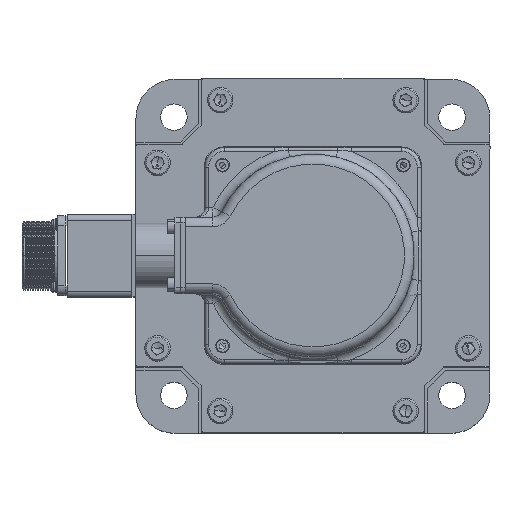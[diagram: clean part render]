
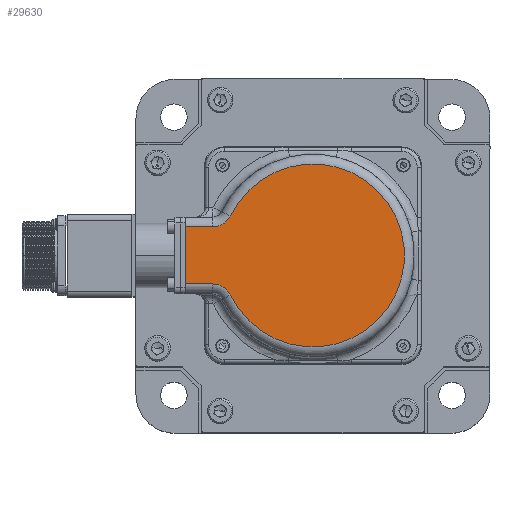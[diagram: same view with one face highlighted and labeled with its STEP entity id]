
A CAD part, top view. The second image highlights one B-rep face of the part: STEP entity #29630.
In plain terms, the highlighted planar face has unit normal (0, 0, 1).
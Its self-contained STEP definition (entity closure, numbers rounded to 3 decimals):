
#2955 = DIRECTION ( 'NONE',  ( -1., 0., 0. ) ) ;
#3153 = EDGE_CURVE ( 'NONE', #33638, #5269, #32492, .T. ) ;
#4293 = CARTESIAN_POINT ( 'NONE',  ( -41.901, -20.164, 348. ) ) ;
#4594 = AXIS2_PLACEMENT_3D ( 'NONE', #22597, #16384, #32690 ) ;
#5269 = VERTEX_POINT ( 'NONE', #35623 ) ;
#5839 = DIRECTION ( 'NONE',  ( 0., 0., 1. ) ) ;
#5988 = PLANE ( 'NONE',  #36847 ) ;
#6222 = CARTESIAN_POINT ( 'NONE',  ( -50.912, -24.5, 348. ) ) ;
#6629 = CIRCLE ( 'NONE', #4594, 46.5 ) ;
#11400 = DIRECTION ( 'NONE',  ( -1., 0., 0. ) ) ;
#11707 = VERTEX_POINT ( 'NONE', #25983 ) ;
#11816 = DIRECTION ( 'NONE',  ( 0., 1., 0. ) ) ;
#12502 = CIRCLE ( 'NONE', #39202, 10. ) ;
#14618 = CARTESIAN_POINT ( 'NONE',  ( 0., 14.5, 348. ) ) ;
#15720 = EDGE_CURVE ( 'NONE', #33638, #30692, #6629, .T. ) ;
#16384 = DIRECTION ( 'NONE',  ( 0., 0., 1. ) ) ;
#16844 = ORIENTED_EDGE ( 'NONE', *, *, #3153, .F. ) ;
#17948 = ORIENTED_EDGE ( 'NONE', *, *, #34853, .F. ) ;
#18734 = EDGE_CURVE ( 'NONE', #36400, #5269, #30817, .T. ) ;
#18880 = LINE ( 'NONE', #42042, #30941 ) ;
#20791 = CARTESIAN_POINT ( 'NONE',  ( -65., 14.5, 348. ) ) ;
#22296 = VERTEX_POINT ( 'NONE', #20791 ) ;
#22597 = CARTESIAN_POINT ( 'NONE',  ( 0., 0., 348. ) ) ;
#22812 = ORIENTED_EDGE ( 'NONE', *, *, #15720, .T. ) ;
#22886 = AXIS2_PLACEMENT_3D ( 'NONE', #6222, #39455, #42484 ) ;
#23501 = ORIENTED_EDGE ( 'NONE', *, *, #18734, .T. ) ;
#23958 = ORIENTED_EDGE ( 'NONE', *, *, #27798, .T. ) ;
#25983 = CARTESIAN_POINT ( 'NONE',  ( -50.912, 14.5, 348. ) ) ;
#26063 = CARTESIAN_POINT ( 'NONE',  ( -65., -14.5, 348. ) ) ;
#26532 = VECTOR ( 'NONE', #37248, 1000. ) ;
#27798 = EDGE_CURVE ( 'NONE', #11707, #22296, #30928, .T. ) ;
#29630 = ADVANCED_FACE ( 'NONE', ( #35364 ), #5988, .T. ) ;
#29851 = CARTESIAN_POINT ( 'NONE',  ( -41.901, 20.164, 348. ) ) ;
#30692 = VERTEX_POINT ( 'NONE', #29851 ) ;
#30817 = LINE ( 'NONE', #36818, #26532 ) ;
#30928 = LINE ( 'NONE', #14618, #37409 ) ;
#30941 = VECTOR ( 'NONE', #11816, 1000. ) ;
#32162 = DIRECTION ( 'NONE',  ( 0., 0., 1. ) ) ;
#32362 = CARTESIAN_POINT ( 'NONE',  ( 0., 0., 348. ) ) ;
#32492 = CIRCLE ( 'NONE', #22886, 10. ) ;
#32690 = DIRECTION ( 'NONE',  ( -1., 0., 0. ) ) ;
#32843 = DIRECTION ( 'NONE',  ( -1., 0., 0. ) ) ;
#33638 = VERTEX_POINT ( 'NONE', #4293 ) ;
#33752 = ORIENTED_EDGE ( 'NONE', *, *, #35334, .F. ) ;
#34853 = EDGE_CURVE ( 'NONE', #11707, #30692, #12502, .T. ) ;
#35334 = EDGE_CURVE ( 'NONE', #36400, #22296, #18880, .T. ) ;
#35364 = FACE_OUTER_BOUND ( 'NONE', #40866, .T. ) ;
#35623 = CARTESIAN_POINT ( 'NONE',  ( -50.912, -14.5, 348. ) ) ;
#36400 = VERTEX_POINT ( 'NONE', #26063 ) ;
#36818 = CARTESIAN_POINT ( 'NONE',  ( -47.666, -14.5, 348. ) ) ;
#36847 = AXIS2_PLACEMENT_3D ( 'NONE', #32362, #32162, #2955 ) ;
#37248 = DIRECTION ( 'NONE',  ( 1., 0., 0. ) ) ;
#37409 = VECTOR ( 'NONE', #11400, 1000. ) ;
#39202 = AXIS2_PLACEMENT_3D ( 'NONE', #42087, #5839, #32843 ) ;
#39455 = DIRECTION ( 'NONE',  ( 0., 0., 1. ) ) ;
#40866 = EDGE_LOOP ( 'NONE', ( #17948, #23958, #33752, #23501, #16844, #22812 ) ) ;
#42042 = CARTESIAN_POINT ( 'NONE',  ( -65., 0., 348. ) ) ;
#42087 = CARTESIAN_POINT ( 'NONE',  ( -50.912, 24.5, 348. ) ) ;
#42484 = DIRECTION ( 'NONE',  ( -1., 0., 0. ) ) ;
